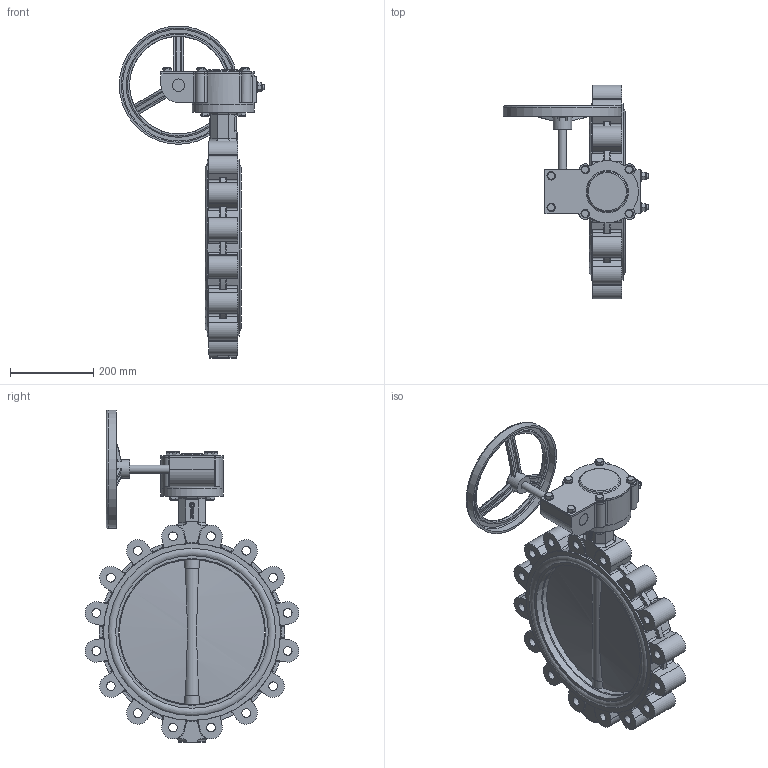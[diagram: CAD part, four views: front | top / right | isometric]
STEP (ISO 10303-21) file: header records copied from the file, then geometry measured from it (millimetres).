
FILE_DESCRIPTION(('STEP AP242'), '1');
FILE_NAME('Ïîâîðîòíûé çàòâîð ïîä ýëåêòðîïðèâîä', '', ('UNSPECIFIED'), ('UNSPECIFIED'), 'C3D Converter', 'C3D Toolkit', '');
FILE_SCHEMA(('AP242_MANAGED_MODEL_BASED_3D_ENGINEERING_MIM_LF { 1 0 10303 442 1 1 4 }'));
Length unit declared in the file: millimetre
Products named in the file (16): П
Assembly tree (36 placements, depth 3):
  (unnamed)
    (unnamed)
    П  x2
    (unnamed)
    (unnamed)
    (unnamed)
    (unnamed)
      (unnamed)
      (unnamed)
      (unnamed)
      (unnamed)
      (unnamed)  x6
      (unnamed)  x6
      (unnamed)  x2
      (unnamed)  x2
      (unnamed)
    (unnamed)  x4
    (unnamed)  x4
Bounding box: 350.5 x 514.96 x 799.5 mm (x, y, z)
Volume: 11356673.4 mm3; surface area: 1571032.5 mm2
Topology: 35 solids, 35 shells, 1200 faces, 2958 edges, 1886 vertices
Faces by surface type: plane 477, cylinder 324, extrusion 173, torus 126, bspline 52, cone 44, sphere 4
Full cylindrical faces by diameter (mm): 6 x2, 10.647 x2, 11.421 x1, 12 x30, 13 x10, 14 x4, 20 x13, 20.752 x16, 27 x5, 29.7 x1, 30 x2, 37.05 x4, 38.184 x5, 45 x1, 150 x2, 235 x1, 245 x1, 275 x1, 285 x1, 350 x1, 353.5 x2, 367.5 x2, 385.083 x4, 402.667 x4, 426 x2
Entity records: 45741 total; most frequent: CARTESIAN_POINT 18449, ORIENTED_EDGE 4972, DIRECTION 4483, EDGE_CURVE 2486, VERTEX_POINT 1663, AXIS2_PLACEMENT_3D 1619, EDGE_LOOP 1263, VECTOR 1245
